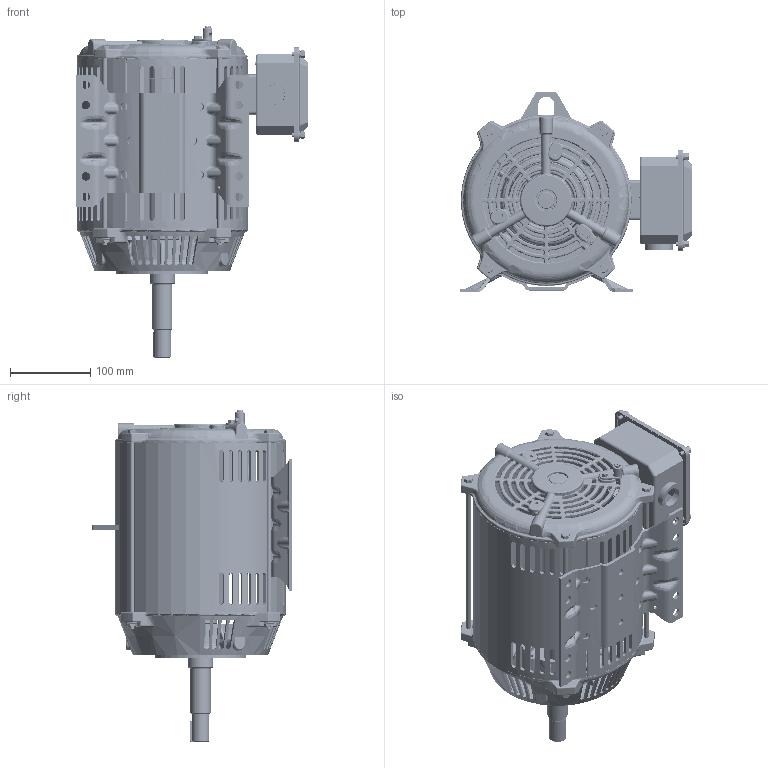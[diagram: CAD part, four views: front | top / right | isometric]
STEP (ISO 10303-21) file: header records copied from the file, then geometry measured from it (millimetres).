
FILE_DESCRIPTION (( 'STEP AP203' ), '1' );
FILE_NAME ('SS621171-200_RevA.STEP', '2022-07-11T06:13:06', ( '' ), ( '' ), 'SwSTEP 2.0', 'SolidWorks 2021', '' );
FILE_SCHEMA (( 'CONFIG_CONTROL_DESIGN' ));
Products named in the file (1): SS621171-200_RevA
Bounding box: 290.15 x 249.8 x 413.33 mm (x, y, z)
Volume: 1677052.2 mm3; surface area: 828762.2 mm2
Topology: 40 solids, 40 shells, 4882 faces, 12075 edges, 7155 vertices
Faces by surface type: bspline 1640, cylinder 1311, plane 848, torus 671, cone 260, sphere 152
Entity records: 221265 total; most frequent: CARTESIAN_POINT 119527, ORIENTED_EDGE 23842, DIRECTION 18046, EDGE_CURVE 11921, AXIS2_PLACEMENT_3D 7641, VERTEX_POINT 7142, EDGE_LOOP 5237, FACE_OUTER_BOUND 4882
